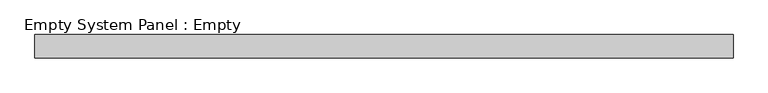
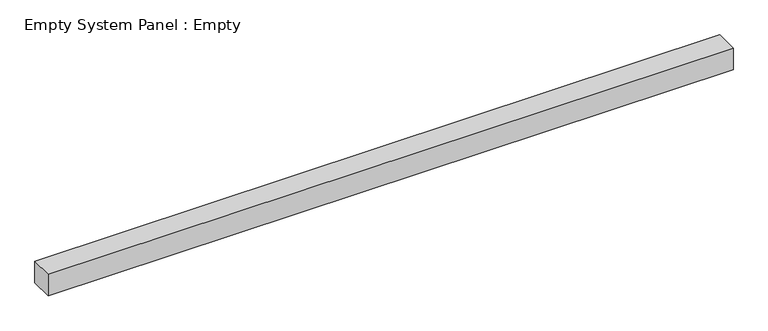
"""IFC4 building model written with IfcOpenShell, lengths in millimetres: plate geometry, Empty System Panel : Empty."""

from ifc_helpers import new_model, si_unit, origin, origin_with_axes, place, context, project, spatial, polyline, outline, extrude, source, transform, mapped, element, save


def empty_system_panel_empty_b7166c00(model_context):
    return source(origin(), model_context, "Body", "SweptSolid", [
        extrude(outline(polyline([(1500.0, 50.0), (-1500.0, 50.0), (-1500.0, 150.0), (1500.0, 150.0), (1500.0, 50.0)])), origin_with_axes(), (0.0, 0.0, 1.0), 100.0),
    ])


if __name__ == "__main__":
    model = new_model("IFC4")
    model_context = context("Model", 3, world=origin())
    ifc_project = project(units=[si_unit("LENGTHUNIT", "METRE", prefix="MILLI")], contexts=[model_context])
    site = spatial("IfcSite", under=ifc_project)
    building = spatial("IfcBuilding", under=site)
    placement = place(None, origin())
    empty_system_panel_empty_shape = empty_system_panel_empty_b7166c00(model_context)
    element("IfcPlate", 1, ObjectType="Empty System Panel : Empty", at=placement, inside=building, context=model_context, shape_type="MappedRepresentation", body=[
        mapped(empty_system_panel_empty_shape, transform((0.0, 0.0, 0.0), x_axis=(1.0, 0.0, 0.0), y_axis=(0.0, 1.0, 0.0), z_axis=(0.0, 0.0, 1.0))),
    ])
    save(model, "model.ifc")
